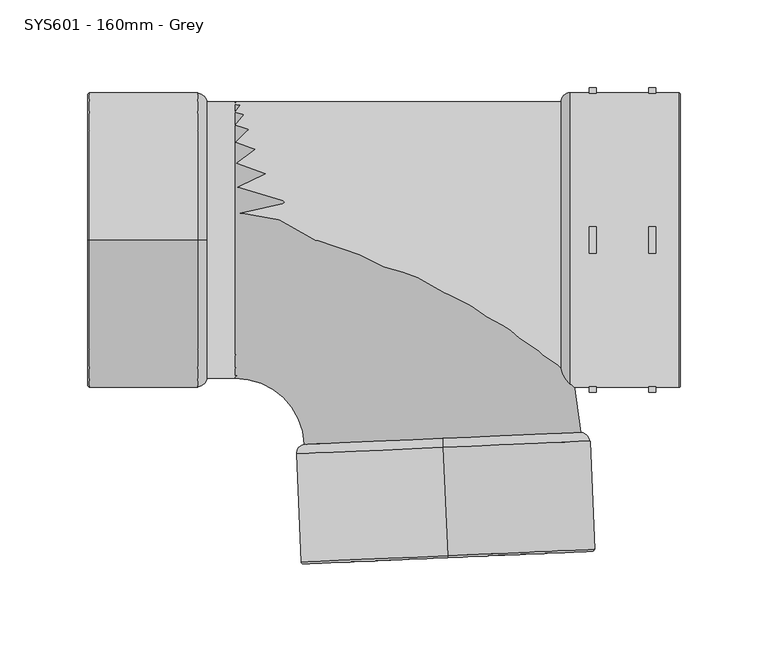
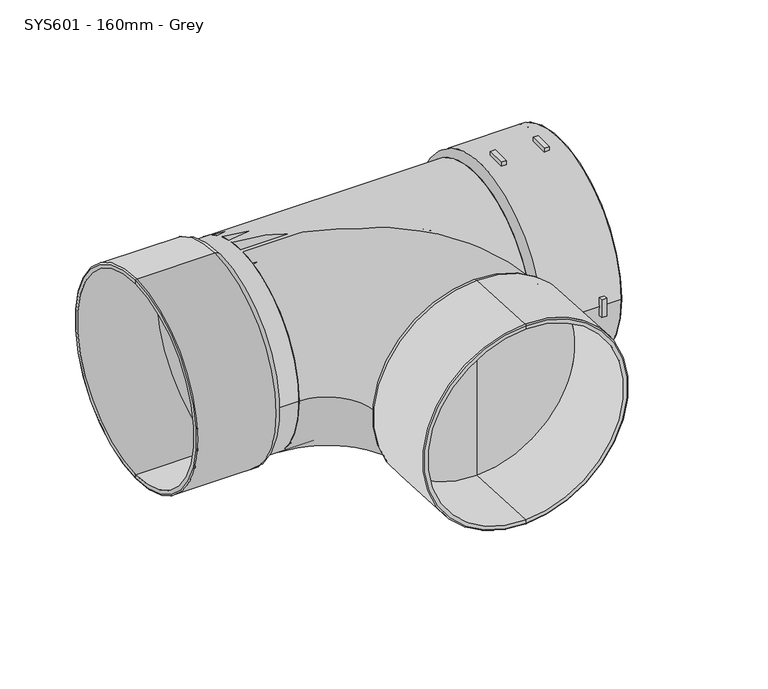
"""IFC4 building model written with IfcOpenShell, lengths in millimetres: pipe fitting geometry, MarleyPlumbingAndDrainage_PipeFitting_EqualBranch87-5_SYS601 : SYS601 - 160mm - Grey."""

from ifc_helpers import new_model, si_unit, point, frame, origin, origin_2d, place, context, project, spatial, polyline, circle_curve, ellipse_curve, trimmed, segment, composite_curve, outline, extrude, source, transform, mapped, element, save
from ifc_brep_helpers import plane_surface, cylinder_surface, revolved_surface, advanced_brep


def sys601_160mm_grey_4aa5460a(model_context):
    return source(origin(), model_context, "Body", "SolidModel", [
        advanced_brep(
        [(-6.919472, -181.0751055, -80.1447925), (-6.919472, -181.0751055, 80.1447925), (-6.919472, -181.0751055, 82.9626013), (-6.919472, -181.0751055, -82.9626013), (-9.6609505, -118.2849248, -80.1447925), (-9.6609505, -118.2849248, 80.1447925), (-9.6609505, -118.2849248, 0.0), (-9.8855903, -113.1398265, -78.85), (-9.8855903, -113.1398265, 78.85), (-9.8855903, -113.1398265, 0.0), (-6.9647227, -180.0386943, -84.0), (-6.9647227, -180.0386943, 84.0), (-9.6609505, -118.2849248, 84.0), (-9.6609505, -118.2849248, -84.0)],
        [
            (0, 1, circle_curve(frame((-6.919472, -181.0751055, 0.0), z_axis=(-0.043619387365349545, 0.9990482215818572, 0.0), x_axis=(0.0, 0.0, 1.0)), 80.1447925)),
            (1, 2),
            (2, 3, circle_curve(frame((-6.919472, -181.0751055, 0.0), z_axis=(0.043619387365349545, -0.9990482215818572, 0.0), x_axis=(0.0, 0.0, 1.0)), 82.9626013)),
            (3, 0),
            (1, 0, circle_curve(frame((-6.919472, -181.0751055, 0.0), z_axis=(-0.043619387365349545, 0.9990482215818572, 0.0), x_axis=(0.0, 0.0, 1.0)), 80.1447925)),
            (3, 2, circle_curve(frame((-6.919472, -181.0751055, 0.0), z_axis=(0.043619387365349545, -0.9990482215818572, 0.0), x_axis=(0.0, 0.0, 1.0)), 82.9626013)),
            (4, 5, circle_curve(frame((-9.6609505, -118.2849248, 0.0), z_axis=(-0.043619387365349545, 0.9990482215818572, 0.0), x_axis=(0.0, 0.0, 1.0)), 80.1447925)),
            (5, 1),
            (0, 4),
            (5, 4, circle_curve(frame((-9.6609505, -118.2849248, 0.0), z_axis=(-0.043619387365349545, 0.9990482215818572, 0.0), x_axis=(0.0, 0.0, 1.0)), 80.1447925)),
            (6, 5),
            (4, 6),
            (7, 8, circle_curve(frame((-9.8855903, -113.1398265, 0.0), z_axis=(-0.043619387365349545, 0.9990482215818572, 0.0), x_axis=(0.0, 0.0, 1.0)), 78.85)),
            (8, 9),
            (9, 7),
            (8, 7, circle_curve(frame((-9.8855903, -113.1398265, 0.0), z_axis=(-0.043619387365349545, 0.9990482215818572, 0.0), x_axis=(0.0, 0.0, 1.0)), 78.85)),
            (10, 11, circle_curve(frame((-6.9647227, -180.0386943, 0.0), z_axis=(-0.043619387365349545, 0.9990482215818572, 0.0), x_axis=(0.0, 0.0, 1.0)), 84.0)),
            (11, 12),
            (12, 13, circle_curve(frame((-9.6609505, -118.2849248, 0.0), z_axis=(0.043619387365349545, -0.9990482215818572, 0.0), x_axis=(0.0, 0.0, 1.0)), 84.0)),
            (13, 10),
            (11, 10, circle_curve(frame((-6.9647227, -180.0386943, 0.0), z_axis=(-0.043619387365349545, 0.9990482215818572, 0.0), x_axis=(0.0, 0.0, 1.0)), 84.0)),
            (13, 12, circle_curve(frame((-9.6609505, -118.2849248, 0.0), z_axis=(0.043619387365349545, -0.9990482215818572, 0.0), x_axis=(0.0, 0.0, 1.0)), 84.0)),
            (2, 11, circle_curve(frame((-6.9647227, -180.0386943, 82.9626013), z_axis=(-0.9990482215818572, -0.043619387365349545, 0.0), x_axis=(0.0, 0.0, 1.0)), 1.0373987)),
            (10, 3, circle_curve(frame((-6.9647227, -180.0386943, -82.9626013), z_axis=(-0.9990482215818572, -0.043619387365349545, 0.0), x_axis=(0.0, 0.0, -1.0)), 1.0373987)),
            (12, 8, circle_curve(frame((-9.6609505, -118.2849248, 78.85), z_axis=(-0.9990482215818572, -0.043619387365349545, 0.0), x_axis=(0.0, 0.0, 1.0)), 5.15)),
            (7, 13, circle_curve(frame((-9.6609505, -118.2849248, -78.85), z_axis=(-0.9990482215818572, -0.043619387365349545, 0.0), x_axis=(0.0, 0.0, -1.0)), 5.15)),
        ],
        [
            plane_surface(frame((-6.919472, -181.0751055, 0.0), z_axis=(0.043619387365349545, -0.9990482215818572, 0.0), x_axis=(0.0, 0.0, 1.0))),
            revolved_surface(polyline([(-6.919471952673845, -181.07510549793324, 80.1447925), (-9.660950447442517, -118.28492479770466, 80.1447925)]), (103.9179676, -2719.669835, 0.0), (0.043619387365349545, -0.9990482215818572, 0.0)),
            plane_surface(frame((-9.6609505, -118.2849248, 0.0), z_axis=(0.043619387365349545, -0.9990482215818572, 0.0), x_axis=(0.0, 0.0, 1.0))),
            plane_surface(frame((-9.8855903, -113.1398265, 0.0), z_axis=(-0.043619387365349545, 0.9990482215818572, 0.0), x_axis=(0.0, 0.0, 1.0))),
            cylinder_surface(frame((103.9179676, -2719.669835, 0.0), z_axis=(0.043619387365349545, -0.9990482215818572, 0.0), x_axis=(0.0, 0.0, 1.0)), 84.0),
            revolved_surface(trimmed(ellipse_curve(frame((-6.9647227, -180.0386943, 82.9626013), z_axis=(0.9990482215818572, 0.043619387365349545, 0.0), x_axis=(0.0, 0.0, 1.0)), 1.0373987, 1.0373987), [point((-6.9647227, -180.0386943, 84.0))], [point((-6.919472, -181.0751055, 82.9626013))], True, "CARTESIAN"), (103.9179676, -2719.669835, 0.0), (0.043619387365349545, -0.9990482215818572, 0.0)),
            revolved_surface(trimmed(ellipse_curve(frame((-9.6609505, -118.2849248, 78.85), z_axis=(0.9990482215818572, 0.043619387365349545, 0.0), x_axis=(0.0, 0.0, 1.0)), 5.15, 5.15), [point((-9.8855903, -113.1398265, 78.85))], [point((-9.6609505, -118.2849248, 84.0))], True, "CARTESIAN"), (103.9179676, -2719.669835, 0.0), (0.043619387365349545, -0.9990482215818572, 0.0)),
        ],
        [
            (0, [[1, 2, 3, 4]]),
            (0, [[5, -4, 6, -2]]),
            (1, [[7, 8, -1, 9]]),
            (1, [[10, -9, -5, -8]]),
            (2, [[11, -7, 12]]),
            (2, [[-12, -10, -11]]),
            (3, [[13, 14, 15]]),
            (3, [[16, -15, -14]]),
            (4, [[17, 18, 19, 20]]),
            (4, [[21, -20, 22, -18]]),
            (5, [[-3, 23, -17, 24]]),
            (5, [[-6, -24, -21, -23]]),
            (6, [[-19, 25, -13, 26]]),
            (6, [[-22, -26, -16, -25]]),
        ],
    ),
        advanced_brep(
        [(-212.2729949, 0.0, 80.1447925), (-212.2729949, 0.0, -80.1447925), (-212.2729949, 0.0, -82.9626013), (-212.2729949, 0.0, 82.9626013), (-149.4229949, 0.0, 80.1447925), (-149.4229949, 0.0, -80.1447925), (-149.4229949, 0.0, 0.0), (-144.2729949, 0.0, 78.85), (-144.2729949, 0.0, -78.85), (-144.2729949, 0.0, 0.0), (-211.2355963, 0.0, 84.0), (-211.2355963, 0.0, -84.0), (-149.4229949, 0.0, -84.0), (-149.4229949, 0.0, 84.0)],
        [
            (0, 1, circle_curve(frame((-212.2729949, 0.0, 0.0), z_axis=(1.0, 0.0, 0.0), x_axis=(0.0, 0.0, -1.0)), 80.1447925)),
            (1, 2),
            (2, 3, circle_curve(frame((-212.2729949, 0.0, 0.0), z_axis=(-1.0, 0.0, 0.0), x_axis=(0.0, 0.0, -1.0)), 82.9626013)),
            (3, 0),
            (1, 0, circle_curve(frame((-212.2729949, 0.0, 0.0), z_axis=(1.0, 0.0, 0.0), x_axis=(0.0, 0.0, -1.0)), 80.1447925)),
            (3, 2, circle_curve(frame((-212.2729949, 0.0, 0.0), z_axis=(-1.0, 0.0, 0.0), x_axis=(0.0, 0.0, -1.0)), 82.9626013)),
            (4, 5, circle_curve(frame((-149.4229949, 0.0, 0.0), z_axis=(1.0, 0.0, 0.0), x_axis=(0.0, 0.0, -1.0)), 80.1447925)),
            (5, 1),
            (0, 4),
            (5, 4, circle_curve(frame((-149.4229949, 0.0, 0.0), z_axis=(1.0, 0.0, 0.0), x_axis=(0.0, 0.0, -1.0)), 80.1447925)),
            (6, 5),
            (4, 6),
            (7, 8, circle_curve(frame((-144.2729949, 0.0, 0.0), z_axis=(1.0, 0.0, 0.0), x_axis=(0.0, 0.0, -1.0)), 78.85)),
            (8, 9),
            (9, 7),
            (8, 7, circle_curve(frame((-144.2729949, 0.0, 0.0), z_axis=(1.0, 0.0, 0.0), x_axis=(0.0, 0.0, -1.0)), 78.85)),
            (10, 11, circle_curve(frame((-211.2355963, 0.0, 0.0), z_axis=(1.0, 0.0, 0.0), x_axis=(0.0, 0.0, -1.0)), 84.0)),
            (11, 12),
            (12, 13, circle_curve(frame((-149.4229949, 0.0, 0.0), z_axis=(-1.0, 0.0, 0.0), x_axis=(0.0, 0.0, -1.0)), 84.0)),
            (13, 10),
            (11, 10, circle_curve(frame((-211.2355963, 0.0, 0.0), z_axis=(1.0, 0.0, 0.0), x_axis=(0.0, 0.0, -1.0)), 84.0)),
            (13, 12, circle_curve(frame((-149.4229949, 0.0, 0.0), z_axis=(-1.0, 0.0, 0.0), x_axis=(0.0, 0.0, -1.0)), 84.0)),
            (2, 11, circle_curve(frame((-211.2355963, 0.0, -82.9626013), z_axis=(0.0, -1.0, 0.0), x_axis=(0.0, 0.0, -1.0)), 1.0373987)),
            (10, 3, circle_curve(frame((-211.2355963, 0.0, 82.9626013), z_axis=(0.0, -1.0, 0.0), x_axis=(0.0, 0.0, 1.0)), 1.0373987)),
            (12, 8, circle_curve(frame((-149.4229949, 0.0, -78.85), z_axis=(0.0, -1.0, 0.0), x_axis=(0.0, 0.0, -1.0)), 5.15)),
            (7, 13, circle_curve(frame((-149.4229949, 0.0, 78.85), z_axis=(0.0, -1.0, 0.0), x_axis=(0.0, 0.0, 1.0)), 5.15)),
        ],
        [
            plane_surface(frame((-212.2729949, 0.0, 0.0), z_axis=(-1.0, 0.0, 0.0), x_axis=(0.0, 0.0, -1.0))),
            revolved_surface(polyline([(-212.27299489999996, 0.0, -80.1447925), (-149.42299490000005, 0.0, -80.1447925)]), (-2753.286206, 0.0, 0.0), (-1.0, 0.0, 0.0)),
            plane_surface(frame((-149.4229949, 0.0, 0.0), z_axis=(-1.0, 0.0, 0.0), x_axis=(0.0, 0.0, -1.0))),
            plane_surface(frame((-144.2729949, 0.0, 0.0), z_axis=(1.0, 0.0, 0.0), x_axis=(0.0, 0.0, -1.0))),
            cylinder_surface(frame((-2753.286206, 0.0, 0.0), z_axis=(-1.0, 0.0, 0.0), x_axis=(0.0, 0.0, -1.0)), 84.0),
            revolved_surface(trimmed(ellipse_curve(frame((-211.2355963, 0.0, -82.9626013), z_axis=(0.0, 1.0, 0.0), x_axis=(0.0, 0.0, -1.0)), 1.0373987, 1.0373987), [point((-211.2355963, 0.0, -84.0))], [point((-212.2729949, 0.0, -82.9626013))], True, "CARTESIAN"), (-2753.286206, 0.0, 0.0), (-1.0, 0.0, 0.0)),
            revolved_surface(trimmed(ellipse_curve(frame((-149.4229949, 0.0, -78.85), z_axis=(0.0, 1.0, 0.0), x_axis=(0.0, 0.0, -1.0)), 5.15, 5.15), [point((-144.2729949, 0.0, -78.85))], [point((-149.4229949, 0.0, -84.0))], True, "CARTESIAN"), (-2753.286206, 0.0, 0.0), (-1.0, 0.0, 0.0)),
        ],
        [
            (0, [[1, 2, 3, 4]]),
            (0, [[5, -4, 6, -2]]),
            (1, [[7, 8, -1, 9]]),
            (1, [[10, -9, -5, -8]]),
            (2, [[11, -7, 12]]),
            (2, [[-12, -10, -11]]),
            (3, [[13, 14, 15]]),
            (3, [[16, -15, -14]]),
            (4, [[17, 18, 19, 20]]),
            (4, [[21, -20, 22, -18]]),
            (5, [[-3, 23, -17, 24]]),
            (5, [[-6, -24, -21, -23]]),
            (6, [[-19, 25, -13, 26]]),
            (6, [[-22, -26, -16, -25]]),
        ],
    ),
        extrude(outline(composite_curve([segment(polyline([(-83.6645086, -7.5), (-86.8768669, -7.5)]), True, "CONTINUOUS"), segment(trimmed(circle_curve(origin_2d(), 87.2), [point((-86.8768669, -7.5))], [point((-86.8768669, 7.5))], False, "CARTESIAN"), True, "CONTINUOUS"), segment(polyline([(-86.8768669, 7.5), (-83.6645086, 7.5)]), True, "CONTINUOUS"), segment(trimmed(circle_curve(origin_2d(), 84.0), [point((-83.6645086, 7.5))], [point((-83.6645086, -7.5))], True, "CARTESIAN"), True, "CONTINUOUS")], self_intersect=False)), frame((73.7718953, 0.0, 0.0), z_axis=(1.0, 0.0, 0.0), x_axis=(0.0, 1.0, 0.0)), (0.0, 0.0, 1.0), 4.0),
        extrude(outline(composite_curve([segment(trimmed(circle_curve(origin_2d(), 84.0), [point((-7.5, -83.6645086))], [point((7.5, -83.6645086))], True, "CARTESIAN"), True, "CONTINUOUS"), segment(polyline([(7.5, -83.6645086), (7.5, -86.8768669)]), True, "CONTINUOUS"), segment(trimmed(circle_curve(origin_2d(), 87.2), [point((7.5, -86.8768669))], [point((-7.5, -86.8768669))], False, "CARTESIAN"), True, "CONTINUOUS"), segment(polyline([(-7.5, -86.8768669), (-7.5, -83.6645086)]), True, "CONTINUOUS")], self_intersect=False)), frame((73.7718953, 0.0, 0.0), z_axis=(1.0, 0.0, 0.0), x_axis=(0.0, 1.0, 0.0)), (0.0, 0.0, 1.0), 4.0),
        extrude(outline(composite_curve([segment(trimmed(circle_curve(origin_2d(), 87.2), [point((-7.5, 86.8768669))], [point((7.5, 86.8768669))], False, "CARTESIAN"), True, "CONTINUOUS"), segment(polyline([(7.5, 86.8768669), (7.5, 83.6645086)]), True, "CONTINUOUS"), segment(trimmed(circle_curve(origin_2d(), 84.0), [point((7.5, 83.6645086))], [point((-7.5, 83.6645086))], True, "CARTESIAN"), True, "CONTINUOUS"), segment(polyline([(-7.5, 83.6645086), (-7.5, 86.8768669)]), True, "CONTINUOUS")], self_intersect=False)), frame((73.7718953, 0.0, 0.0), z_axis=(1.0, 0.0, 0.0), x_axis=(0.0, 1.0, 0.0)), (0.0, 0.0, 1.0), 4.0),
        extrude(outline(composite_curve([segment(polyline([(86.8768669, -7.5), (83.6645086, -7.5)]), True, "CONTINUOUS"), segment(trimmed(circle_curve(origin_2d(), 84.0), [point((83.6645086, -7.5))], [point((83.6645086, 7.5))], True, "CARTESIAN"), True, "CONTINUOUS"), segment(polyline([(83.6645086, 7.5), (86.8768669, 7.5)]), True, "CONTINUOUS"), segment(trimmed(circle_curve(origin_2d(), 87.2), [point((86.8768669, 7.5))], [point((86.8768669, -7.5))], False, "CARTESIAN"), True, "CONTINUOUS")], self_intersect=False)), frame((73.7718953, 0.0, 0.0), z_axis=(1.0, 0.0, 0.0), x_axis=(0.0, 1.0, 0.0)), (0.0, 0.0, 1.0), 4.0),
        extrude(outline(composite_curve([segment(polyline([(7.5, 86.8768669), (7.5, 83.6645086)]), True, "CONTINUOUS"), segment(trimmed(circle_curve(origin_2d(), 84.0), [point((7.5, 83.6645086))], [point((-7.5, 83.6645086))], True, "CARTESIAN"), True, "CONTINUOUS"), segment(polyline([(-7.5, 83.6645086), (-7.5, 86.8768669)]), True, "CONTINUOUS"), segment(trimmed(circle_curve(origin_2d(), 87.2), [point((-7.5, 86.8768669))], [point((7.5, 86.8768669))], False, "CARTESIAN"), True, "CONTINUOUS")], self_intersect=False)), frame((107.7718953, 0.0, 0.0), z_axis=(1.0, 0.0, 0.0), x_axis=(0.0, 1.0, 0.0)), (0.0, 0.0, 1.0), 4.0),
        extrude(outline(composite_curve([segment(polyline([(86.8768669, -7.5), (83.6645086, -7.5)]), True, "CONTINUOUS"), segment(trimmed(circle_curve(origin_2d(), 84.0), [point((83.6645086, -7.5))], [point((83.6645086, 7.5))], True, "CARTESIAN"), True, "CONTINUOUS"), segment(polyline([(83.6645086, 7.5), (86.8768669, 7.5)]), True, "CONTINUOUS"), segment(trimmed(circle_curve(origin_2d(), 87.2), [point((86.8768669, 7.5))], [point((86.8768669, -7.5))], False, "CARTESIAN"), True, "CONTINUOUS")], self_intersect=False)), frame((107.7718953, 0.0, 0.0), z_axis=(1.0, 0.0, 0.0), x_axis=(0.0, 1.0, 0.0)), (0.0, 0.0, 1.0), 4.0),
        extrude(outline(composite_curve([segment(polyline([(7.5, -83.6645086), (7.5, -86.8768669)]), True, "CONTINUOUS"), segment(trimmed(circle_curve(origin_2d(), 87.2), [point((7.5, -86.8768669))], [point((-7.5, -86.8768669))], False, "CARTESIAN"), True, "CONTINUOUS"), segment(polyline([(-7.5, -86.8768669), (-7.5, -83.6645086)]), True, "CONTINUOUS"), segment(trimmed(circle_curve(origin_2d(), 84.0), [point((-7.5, -83.6645086))], [point((7.5, -83.6645086))], True, "CARTESIAN"), True, "CONTINUOUS")], self_intersect=False)), frame((107.7718953, 0.0, 0.0), z_axis=(1.0, 0.0, 0.0), x_axis=(0.0, 1.0, 0.0)), (0.0, 0.0, 1.0), 4.0),
        extrude(outline(composite_curve([segment(polyline([(-83.6645086, -7.5), (-86.8768669, -7.5)]), True, "CONTINUOUS"), segment(trimmed(circle_curve(origin_2d(), 87.2), [point((-86.8768669, -7.5))], [point((-86.8768669, 7.5))], False, "CARTESIAN"), True, "CONTINUOUS"), segment(polyline([(-86.8768669, 7.5), (-83.6645086, 7.5)]), True, "CONTINUOUS"), segment(trimmed(circle_curve(origin_2d(), 84.0), [point((-83.6645086, 7.5))], [point((-83.6645086, -7.5))], True, "CARTESIAN"), True, "CONTINUOUS")], self_intersect=False)), frame((107.7718953, 0.0, 0.0), z_axis=(1.0, 0.0, 0.0), x_axis=(0.0, 1.0, 0.0)), (0.0, 0.0, 1.0), 4.0),
        advanced_brep(
        [(125.7270051, 80.1447925, 0.0), (125.7270051, -80.1447925, 0.0), (125.7270051, -82.9626013, 0.0), (125.7270051, 82.9626013, 0.0), (62.8770051, 80.1447925, 0.0), (62.8770051, -80.1447925, 0.0), (62.8770051, 0.0, 0.0), (57.7270051, 78.85, 0.0), (57.7270051, -78.85, 0.0), (57.7270051, 0.0, 0.0), (124.6896064, 84.0, 0.0), (124.6896064, -84.0, 0.0), (62.8770051, -84.0, 0.0), (62.8770051, 84.0, 0.0)],
        [
            (0, 1, circle_curve(frame((125.7270051, 0.0, 0.0), z_axis=(-1.0, 0.0, 0.0), x_axis=(0.0, -1.0, 0.0)), 80.1447925)),
            (1, 2),
            (2, 3, circle_curve(frame((125.7270051, 0.0, 0.0), z_axis=(1.0, 0.0, 0.0), x_axis=(0.0, -1.0, 0.0)), 82.9626013)),
            (3, 0),
            (1, 0, circle_curve(frame((125.7270051, 0.0, 0.0), z_axis=(-1.0, 0.0, 0.0), x_axis=(0.0, -1.0, 0.0)), 80.1447925)),
            (3, 2, circle_curve(frame((125.7270051, 0.0, 0.0), z_axis=(1.0, 0.0, 0.0), x_axis=(0.0, -1.0, 0.0)), 82.9626013)),
            (4, 5, circle_curve(frame((62.8770051, 0.0, 0.0), z_axis=(-1.0, 0.0, 0.0), x_axis=(0.0, -1.0, 0.0)), 80.1447925)),
            (5, 1),
            (0, 4),
            (5, 4, circle_curve(frame((62.8770051, 0.0, 0.0), z_axis=(-1.0, 0.0, 0.0), x_axis=(0.0, -1.0, 0.0)), 80.1447925)),
            (6, 5),
            (4, 6),
            (7, 8, circle_curve(frame((57.7270051, 0.0, 0.0), z_axis=(-1.0, 0.0, 0.0), x_axis=(0.0, -1.0, 0.0)), 78.85)),
            (8, 9),
            (9, 7),
            (8, 7, circle_curve(frame((57.7270051, 0.0, 0.0), z_axis=(-1.0, 0.0, 0.0), x_axis=(0.0, -1.0, 0.0)), 78.85)),
            (10, 11, circle_curve(frame((124.6896064, 0.0, 0.0), z_axis=(-1.0, 0.0, 0.0), x_axis=(0.0, -1.0, 0.0)), 84.0)),
            (11, 12),
            (12, 13, circle_curve(frame((62.8770051, 0.0, 0.0), z_axis=(1.0, 0.0, 0.0), x_axis=(0.0, -1.0, 0.0)), 84.0)),
            (13, 10),
            (11, 10, circle_curve(frame((124.6896064, 0.0, 0.0), z_axis=(-1.0, 0.0, 0.0), x_axis=(0.0, -1.0, 0.0)), 84.0)),
            (13, 12, circle_curve(frame((62.8770051, 0.0, 0.0), z_axis=(1.0, 0.0, 0.0), x_axis=(0.0, -1.0, 0.0)), 84.0)),
            (2, 11, circle_curve(frame((124.6896064, -82.9626013, 0.0), z_axis=(0.0, 0.0, -1.0), x_axis=(0.0, -1.0, 0.0)), 1.0373987)),
            (10, 3, circle_curve(frame((124.6896064, 82.9626013, 0.0), z_axis=(0.0, 0.0, -1.0), x_axis=(0.0, 1.0, 0.0)), 1.0373987)),
            (12, 8, circle_curve(frame((62.8770051, -78.85, 0.0), z_axis=(0.0, 0.0, -1.0), x_axis=(0.0, -1.0, 0.0)), 5.15)),
            (7, 13, circle_curve(frame((62.8770051, 78.85, 0.0), z_axis=(0.0, 0.0, -1.0), x_axis=(0.0, 1.0, 0.0)), 5.15)),
        ],
        [
            plane_surface(frame((125.7270051, 0.0, 0.0), z_axis=(1.0, 0.0, 0.0), x_axis=(0.0, -1.0, 0.0))),
            revolved_surface(polyline([(125.72700510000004, -80.1447925, 0.0), (62.87700510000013, -80.1447925, 0.0)]), (2666.7402161, 0.0, 0.0), (1.0, 0.0, 0.0)),
            plane_surface(frame((62.8770051, 0.0, 0.0), z_axis=(1.0, 0.0, 0.0), x_axis=(0.0, -1.0, 0.0))),
            plane_surface(frame((57.7270051, 0.0, 0.0), z_axis=(-1.0, 0.0, 0.0), x_axis=(0.0, -1.0, 0.0))),
            cylinder_surface(frame((2666.7402161, 0.0, 0.0), z_axis=(1.0, 0.0, 0.0), x_axis=(0.0, -1.0, 0.0)), 84.0),
            revolved_surface(trimmed(ellipse_curve(frame((124.6896064, -82.9626013, 0.0), z_axis=(0.0, 0.0, 1.0), x_axis=(0.0, -1.0, 0.0)), 1.0373987, 1.0373987), [point((124.6896064, -84.0, 0.0))], [point((125.7270051, -82.9626013, 0.0))], True, "CARTESIAN"), (2666.7402161, 0.0, 0.0), (1.0, 0.0, 0.0)),
            revolved_surface(trimmed(ellipse_curve(frame((62.8770051, -78.85, 0.0), z_axis=(0.0, 0.0, 1.0), x_axis=(0.0, -1.0, 0.0)), 5.15, 5.15), [point((57.7270051, -78.85, 0.0))], [point((62.8770051, -84.0, 0.0))], True, "CARTESIAN"), (2666.7402161, 0.0, 0.0), (1.0, 0.0, 0.0)),
        ],
        [
            (0, [[1, 2, 3, 4]]),
            (0, [[5, -4, 6, -2]]),
            (1, [[7, 8, -1, 9]]),
            (1, [[10, -9, -5, -8]]),
            (2, [[11, -7, 12]]),
            (2, [[-12, -10, -11]]),
            (3, [[13, 14, 15]]),
            (3, [[16, -15, -14]]),
            (4, [[17, 18, 19, 20]]),
            (4, [[21, -20, 22, -18]]),
            (5, [[-3, 23, -17, 24]]),
            (5, [[-6, -24, -21, -23]]),
            (6, [[-19, 25, -13, 26]]),
            (6, [[-22, -26, -16, -25]]),
        ],
    ),
        advanced_brep(
        [(-128.0729949, -78.85, 0.0), (-128.0729949, 78.85, 0.0), (-88.6605426, -116.5792152, 0.0), (68.889362, -109.7004378, 0.0)],
        [
            (0, 1, circle_curve(frame((-128.0729949, 0.0, 0.0), z_axis=(-1.0, 0.0, 0.0), x_axis=(0.0, 1.0, 0.0)), 78.85)),
            (1, 0, circle_curve(frame((-128.0729949, 0.0, 0.0), z_axis=(-1.0, 0.0, 0.0), x_axis=(0.0, 1.0, 0.0)), 78.85)),
            (2, 3, circle_curve(frame((-9.8855903, -113.1398265, 0.0), z_axis=(0.04361938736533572, -0.9990482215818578, 0.0), x_axis=(0.9990482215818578, 0.04361938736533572, 0.0)), 78.85)),
            (3, 2, circle_curve(frame((-9.8855903, -113.1398265, 0.0), z_axis=(0.04361938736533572, -0.9990482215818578, 0.0), x_axis=(0.9990482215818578, 0.04361938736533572, 0.0)), 78.85)),
            (3, 1, circle_curve(frame((-128.0729949, -118.3, 0.0), z_axis=(0.0, 0.0, 1.0), x_axis=(0.0, 1.0, 0.0)), 197.15)),
            (0, 2, circle_curve(frame((-128.0729949, -118.3, 0.0), z_axis=(0.0, 0.0, -1.0), x_axis=(0.0, 1.0, 0.0)), 39.45)),
        ],
        [
            plane_surface(frame((-128.0729949, 0.0, 0.0), z_axis=(-1.0, 0.0, 0.0), x_axis=(0.0, 0.0, 1.0))),
            plane_surface(frame((-9.8855903, -113.1398265, 0.0), z_axis=(0.04361938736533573, -0.9990482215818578, 0.0), x_axis=(0.0, 0.0, 1.0))),
            revolved_surface(trimmed(ellipse_curve(frame((-128.0729949, 0.0, 0.0), z_axis=(-1.0, 0.0, 0.0), x_axis=(0.0, 1.0, 0.0)), 78.85, 78.85), [point((-128.0729949, -78.85, 0.0))], [point((-128.0729949, 78.85, 0.0))], True, "CARTESIAN"), (-128.0729949, -118.3, 0.0), (0.0, 0.0, -1.0)),
            revolved_surface(trimmed(ellipse_curve(frame((-128.0729949, 0.0, 0.0), z_axis=(-1.0, 0.0, 0.0), x_axis=(0.0, 1.0, 0.0)), 78.85, 78.85), [point((-128.0729949, 78.85, 0.0))], [point((-128.0729949, -78.85, 0.0))], True, "CARTESIAN"), (-128.0729949, -118.3, 0.0), (0.0, 0.0, -1.0)),
        ],
        [
            (0, [[1, 2]]),
            (1, [[3, 4]]),
            (2, [[5, -1, 6, -4]]),
            (3, [[-6, -2, -5, -3]]),
        ],
    ),
        advanced_brep(
        [(-144.2729949, 78.85, 0.0), (-144.2729949, -78.85, 0.0), (-144.2729949, 0.0, 0.0), (57.7270051, 78.85, 0.0), (57.7270051, -78.85, 0.0), (57.7270051, 0.0, 0.0)],
        [
            (0, 1, circle_curve(frame((-144.2729949, 0.0, 0.0), z_axis=(-1.0, 0.0, 0.0), x_axis=(0.0, -1.0, 0.0)), 78.85)),
            (1, 2),
            (2, 0),
            (1, 0, circle_curve(frame((-144.2729949, 0.0, 0.0), z_axis=(-1.0, 0.0, 0.0), x_axis=(0.0, -1.0, 0.0)), 78.85)),
            (3, 4, circle_curve(frame((57.7270051, 0.0, 0.0), z_axis=(-1.0, 0.0, 0.0), x_axis=(0.0, -1.0, 0.0)), 78.85)),
            (4, 1),
            (0, 3),
            (4, 3, circle_curve(frame((57.7270051, 0.0, 0.0), z_axis=(-1.0, 0.0, 0.0), x_axis=(0.0, -1.0, 0.0)), 78.85)),
            (5, 4),
            (3, 5),
        ],
        [
            plane_surface(frame((-144.2729949, 0.0, 0.0), z_axis=(-1.0, 0.0, 0.0), x_axis=(0.0, -1.0, 0.0))),
            cylinder_surface(frame((1985.427396, 0.0, 0.0), z_axis=(1.0, 0.0, 0.0), x_axis=(0.0, -1.0, 0.0)), 78.85),
            plane_surface(frame((57.7270051, 0.0, 0.0), z_axis=(1.0, 0.0, 0.0), x_axis=(0.0, -1.0, 0.0))),
        ],
        [
            (0, [[1, 2, 3]]),
            (0, [[4, -3, -2]]),
            (1, [[5, 6, -1, 7]]),
            (1, [[8, -7, -4, -6]]),
            (2, [[9, -5, 10]]),
            (2, [[-10, -8, -9]]),
        ],
    ),
    ])


if __name__ == "__main__":
    model = new_model("IFC4")
    model_context = context("Model", 3, world=origin())
    ifc_project = project(units=[si_unit("LENGTHUNIT", "METRE", prefix="MILLI")], contexts=[model_context])
    site = spatial("IfcSite", under=ifc_project)
    building = spatial("IfcBuilding", under=site)
    placement = place(None, origin())
    sys601_160mm_grey_shape = sys601_160mm_grey_4aa5460a(model_context)
    element("IfcPipeFitting", 1, ObjectType="MarleyPlumbingAndDrainage_PipeFitting_EqualBranch87-5_SYS601 : SYS601 - 160mm - Grey", at=placement, inside=building, context=model_context, shape_type="MappedRepresentation", body=[
        mapped(sys601_160mm_grey_shape, transform((0.0, 0.0, 0.0), x_axis=(1.0, 0.0, 0.0), y_axis=(0.0, 1.0, 0.0), z_axis=(0.0, 0.0, 1.0))),
    ])
    save(model, "model.ifc")
